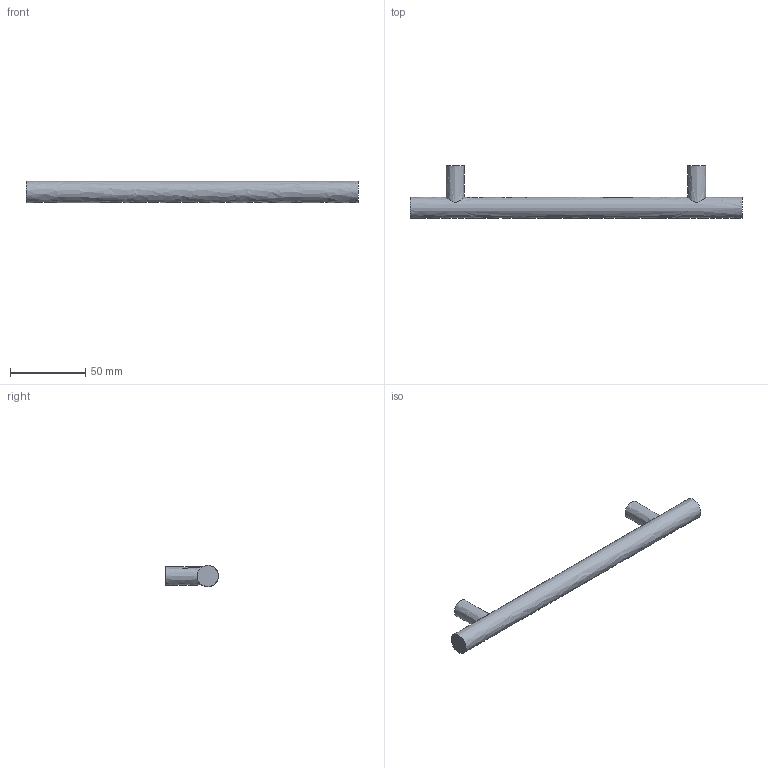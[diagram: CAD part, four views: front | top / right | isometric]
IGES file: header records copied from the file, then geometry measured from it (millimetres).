
Start section: Data from Parasolid IGES Translator 15.0.47, Copyright(c) 2006 Siemens P LM Software. All Rights Reserved.
Global section: file name: 9071048.igs; native system:  By UGS Corp.; preprocessor: XPlus GENERIC/IGES 3.0; author: Noname; organization: Noname; date: 20140122.181403; units: millimetre
Bounding box: 220 x 35 x 14 mm (x, y, z)
Surface area: 11955.8 mm2 (no closed solid volume)
Topology: 0 solids, 0 shells, 11 faces, 30 edges, 22 vertices
Faces by surface type: extrusion 6, revolution 5
